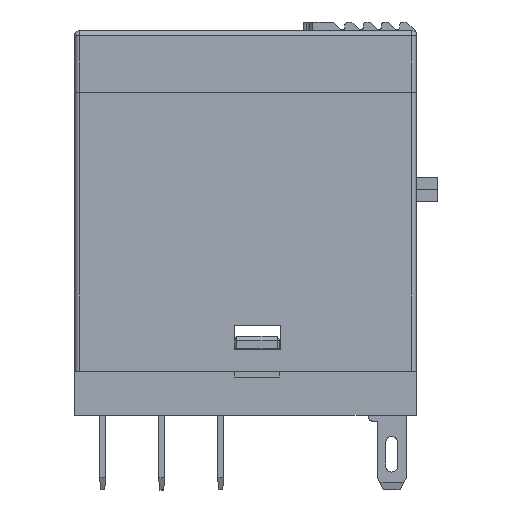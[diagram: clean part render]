
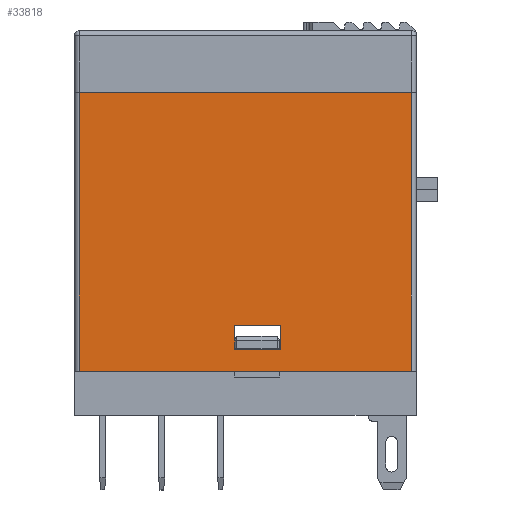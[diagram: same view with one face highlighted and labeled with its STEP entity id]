
A CAD part, top view. The second image highlights one B-rep face of the part: STEP entity #33818.
In plain terms, the highlighted planar face has unit normal (0, 0, 1).
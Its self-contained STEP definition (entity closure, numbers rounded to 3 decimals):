
#49 = LINE ( 'NONE', #2973, #46370 ) ;
#1399 = CARTESIAN_POINT ( 'NONE',  ( 14., 23.5, 6.3 ) ) ;
#1572 = DIRECTION ( 'NONE',  ( 1., 0., 0. ) ) ;
#2045 = ORIENTED_EDGE ( 'NONE', *, *, #50520, .T. ) ;
#2616 = EDGE_CURVE ( 'NONE', #14226, #3368, #38650, .T. ) ;
#2973 = CARTESIAN_POINT ( 'NONE',  ( 14., 23.5, 6.3 ) ) ;
#3368 = VERTEX_POINT ( 'NONE', #22091 ) ;
#4299 = DIRECTION ( 'NONE',  ( 1., 0., 0. ) ) ;
#4865 = DIRECTION ( 'NONE',  ( 0., -1., 0. ) ) ;
#4900 = CARTESIAN_POINT ( 'NONE',  ( -14.4, 23.5, 6.3 ) ) ;
#7912 = ORIENTED_EDGE ( 'NONE', *, *, #57645, .F. ) ;
#9096 = CARTESIAN_POINT ( 'NONE',  ( -14.4, 23.5, 6.3 ) ) ;
#13906 = PLANE ( 'NONE',  #41148 ) ;
#14226 = VERTEX_POINT ( 'NONE', #56207 ) ;
#14426 = LINE ( 'NONE', #31187, #26390 ) ;
#14730 = VECTOR ( 'NONE', #4865, 1000. ) ;
#16305 = DIRECTION ( 'NONE',  ( 0., 1., 0. ) ) ;
#16554 = ORIENTED_EDGE ( 'NONE', *, *, #42497, .F. ) ;
#18270 = DIRECTION ( 'NONE',  ( 0., 1., 0. ) ) ;
#18323 = CARTESIAN_POINT ( 'NONE',  ( -0.9, 1.85, 6.3 ) ) ;
#18402 = DIRECTION ( 'NONE',  ( -1., 0., 0. ) ) ;
#18606 = VECTOR ( 'NONE', #22578, 1000. ) ;
#18747 = ORIENTED_EDGE ( 'NONE', *, *, #43455, .T. ) ;
#19009 = LINE ( 'NONE', #41813, #53423 ) ;
#20497 = CARTESIAN_POINT ( 'NONE',  ( -0.9, 3.85, 6.3 ) ) ;
#21936 = EDGE_CURVE ( 'NONE', #14226, #25467, #57275, .T. ) ;
#21950 = EDGE_CURVE ( 'NONE', #48222, #38422, #41091, .T. ) ;
#22091 = CARTESIAN_POINT ( 'NONE',  ( -14., 0., 6.3 ) ) ;
#22461 = CARTESIAN_POINT ( 'NONE',  ( 3., 3.85, 6.3 ) ) ;
#22578 = DIRECTION ( 'NONE',  ( 1., 0., 0. ) ) ;
#22740 = ORIENTED_EDGE ( 'NONE', *, *, #43279, .F. ) ;
#22833 = CARTESIAN_POINT ( 'NONE',  ( -0.9, 3.85, 6.3 ) ) ;
#25467 = VERTEX_POINT ( 'NONE', #1399 ) ;
#26390 = VECTOR ( 'NONE', #4299, 1000. ) ;
#27357 = DIRECTION ( 'NONE',  ( 0., -1., 0. ) ) ;
#29320 = VERTEX_POINT ( 'NONE', #20497 ) ;
#30580 = VECTOR ( 'NONE', #18270, 1000. ) ;
#31101 = ORIENTED_EDGE ( 'NONE', *, *, #21950, .F. ) ;
#31187 = CARTESIAN_POINT ( 'NONE',  ( -14.4, 0., 6.3 ) ) ;
#33818 = ADVANCED_FACE ( 'NONE', ( #37274, #49182 ), #13906, .F. ) ;
#34569 = VECTOR ( 'NONE', #27357, 1000. ) ;
#34992 = CARTESIAN_POINT ( 'NONE',  ( -0.9, 3.85, 6.3 ) ) ;
#35993 = LINE ( 'NONE', #22833, #34569 ) ;
#36097 = EDGE_LOOP ( 'NONE', ( #22740, #16554, #7912, #31101 ) ) ;
#37274 = FACE_BOUND ( 'NONE', #36097, .T. ) ;
#38422 = VERTEX_POINT ( 'NONE', #22461 ) ;
#38650 = LINE ( 'NONE', #40587, #14730 ) ;
#40587 = CARTESIAN_POINT ( 'NONE',  ( -14., 23.5, 6.3 ) ) ;
#41002 = VERTEX_POINT ( 'NONE', #56570 ) ;
#41091 = LINE ( 'NONE', #45154, #30580 ) ;
#41148 = AXIS2_PLACEMENT_3D ( 'NONE', #4900, #45296, #18402 ) ;
#41813 = CARTESIAN_POINT ( 'NONE',  ( -0.9, 1.85, 6.3 ) ) ;
#42497 = EDGE_CURVE ( 'NONE', #29320, #42531, #35993, .T. ) ;
#42531 = VERTEX_POINT ( 'NONE', #18323 ) ;
#43279 = EDGE_CURVE ( 'NONE', #42531, #48222, #19009, .T. ) ;
#43440 = CARTESIAN_POINT ( 'NONE',  ( 3., 1.85, 6.3 ) ) ;
#43455 = EDGE_CURVE ( 'NONE', #41002, #25467, #49, .T. ) ;
#43648 = VECTOR ( 'NONE', #48517, 1000. ) ;
#43928 = ORIENTED_EDGE ( 'NONE', *, *, #21936, .F. ) ;
#45154 = CARTESIAN_POINT ( 'NONE',  ( 3., 3.85, 6.3 ) ) ;
#45296 = DIRECTION ( 'NONE',  ( 0., 0., -1. ) ) ;
#46370 = VECTOR ( 'NONE', #16305, 1000. ) ;
#47854 = ORIENTED_EDGE ( 'NONE', *, *, #2616, .T. ) ;
#48222 = VERTEX_POINT ( 'NONE', #43440 ) ;
#48517 = DIRECTION ( 'NONE',  ( -1., 0., 0. ) ) ;
#49182 = FACE_OUTER_BOUND ( 'NONE', #54102, .T. ) ;
#50520 = EDGE_CURVE ( 'NONE', #3368, #41002, #14426, .T. ) ;
#53423 = VECTOR ( 'NONE', #1572, 1000. ) ;
#54102 = EDGE_LOOP ( 'NONE', ( #2045, #18747, #43928, #47854 ) ) ;
#55538 = LINE ( 'NONE', #34992, #43648 ) ;
#56207 = CARTESIAN_POINT ( 'NONE',  ( -14., 23.5, 6.3 ) ) ;
#56570 = CARTESIAN_POINT ( 'NONE',  ( 14., 0., 6.3 ) ) ;
#57275 = LINE ( 'NONE', #9096, #18606 ) ;
#57645 = EDGE_CURVE ( 'NONE', #38422, #29320, #55538, .T. ) ;
